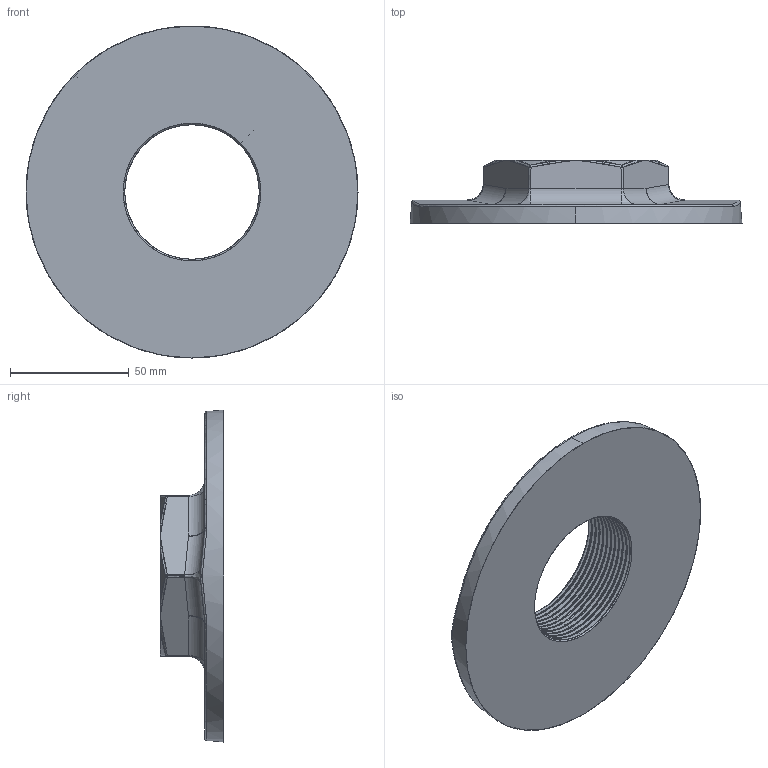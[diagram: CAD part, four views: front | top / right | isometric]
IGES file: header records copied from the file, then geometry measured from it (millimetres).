
Start section: SolidWorks IGES file using analytic representation for surfaces
Global section: file name: C:\Users\Joel Rosa\Desktop\Tubulação\12-99-OK\12-99-010.IGS; native system: SolidWorks 2011; preprocessor: SolidWorks 2011; author: Joel Rosa; date: 131021.211227; units: millimetre
Bounding box: 140 x 26.8 x 140 mm (x, y, z)
Surface area: 40214.3 mm2 (no closed solid volume)
Topology: 0 solids, 0 shells, 315 faces, 2686 edges, 2670 vertices
Faces by surface type: bspline 228, revolution 87
